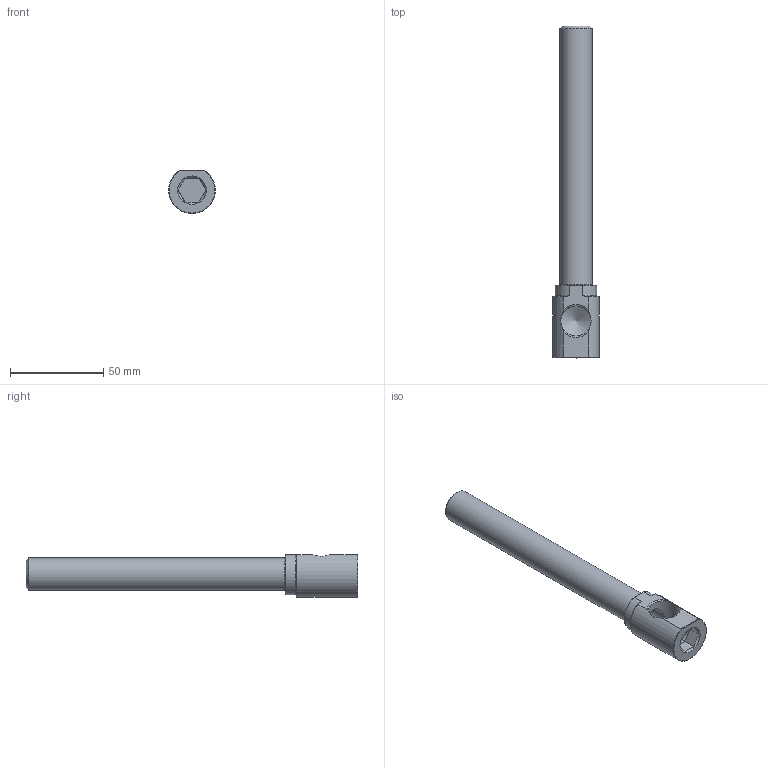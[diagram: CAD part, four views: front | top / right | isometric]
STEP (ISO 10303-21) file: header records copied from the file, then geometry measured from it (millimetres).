
FILE_DESCRIPTION(/* description */ (''),/* implementation_level */ '2;1');
FILE_NAME(/* name */ 'C:/Users/drich/Desktop/EKL38 X 7 v2.step',/* time_stamp */ '2019-11-18T14:41:48-06:00',/* author */ (''),/* organization */ (''),/* preprocessor_version */ 'ST-DEVELOPER v18',/* originating_system */ 'Autodesk Translation Framework v8.12.0.6',/* authorisation */ '');
FILE_SCHEMA (('AUTOMOTIVE_DESIGN { 1 0 10303 214 3 1 1 }'));
Length unit declared in the file: inch
Products named in the file (2): EKL38 X 7; EKL38 X 7_1
Assembly tree (1 placements, depth 2):
  EKL38 X 7
    EKL38 X 7_1
Bounding box: 25.01 x 177.8 x 23.03 mm (x, y, z)
Volume: 28684.5 mm3; surface area: 18106.9 mm2
Topology: 1 solids, 1 shells, 43 faces, 116 edges, 76 vertices
Faces by surface type: plane 21, cone 11, cylinder 11
Full cylindrical faces by diameter (mm): 11.887 x1, 16.231 x1, 17.328 x1
Entity records: 1459 total; most frequent: CARTESIAN_POINT 341, ORIENTED_EDGE 230, DIRECTION 218, EDGE_CURVE 115, AXIS2_PLACEMENT_3D 81, VERTEX_POINT 76, LINE 56, VECTOR 56
